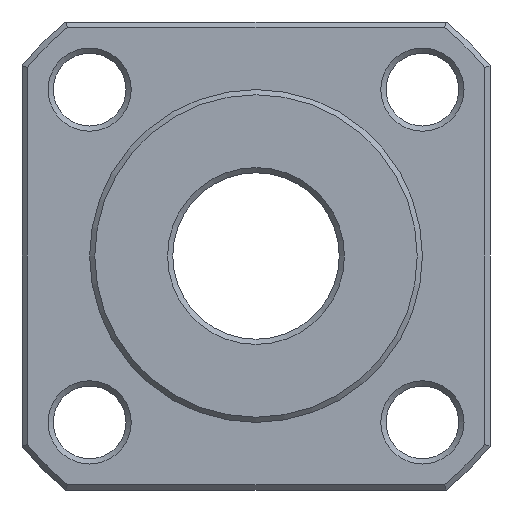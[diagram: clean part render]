
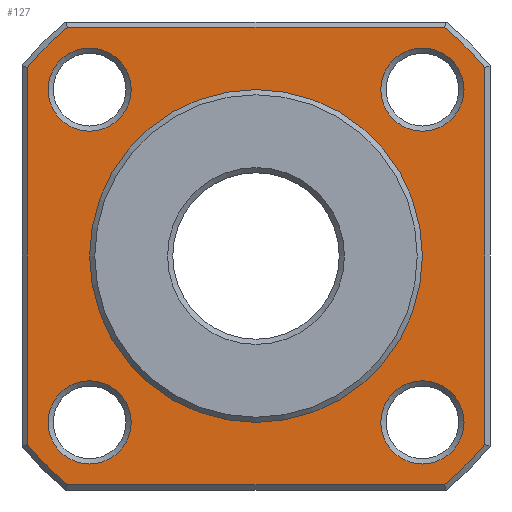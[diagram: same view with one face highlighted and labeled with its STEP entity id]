
A CAD part, left-side view. The second image highlights one B-rep face of the part: STEP entity #127.
In plain terms, the highlighted planar face has unit normal (-1, 0, 0).
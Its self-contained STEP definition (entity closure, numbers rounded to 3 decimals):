
#127=ADVANCED_FACE('',(#199,#200,#201,#202,#203,#204),#205,.F.);
#199=FACE_BOUND('',#363,.T.);
#200=FACE_BOUND('',#364,.T.);
#201=FACE_BOUND('',#365,.T.);
#202=FACE_BOUND('',#366,.T.);
#203=FACE_BOUND('',#367,.T.);
#204=FACE_OUTER_BOUND('',#368,.T.);
#205=PLANE('',#369);
#363=EDGE_LOOP('',(#535));
#364=EDGE_LOOP('',(#536));
#365=EDGE_LOOP('',(#537));
#366=EDGE_LOOP('',(#538));
#367=EDGE_LOOP('',(#539));
#368=EDGE_LOOP('',(#540,#541,#542,#543,#544,#545,#546,#547));
#369=AXIS2_PLACEMENT_3D('',#548,#549,#550);
#535=ORIENTED_EDGE('',*,*,#924,.T.);
#536=ORIENTED_EDGE('',*,*,#925,.T.);
#537=ORIENTED_EDGE('',*,*,#926,.T.);
#538=ORIENTED_EDGE('',*,*,#927,.T.);
#539=ORIENTED_EDGE('',*,*,#923,.F.);
#540=ORIENTED_EDGE('',*,*,#928,.T.);
#541=ORIENTED_EDGE('',*,*,#929,.T.);
#542=ORIENTED_EDGE('',*,*,#930,.T.);
#543=ORIENTED_EDGE('',*,*,#931,.T.);
#544=ORIENTED_EDGE('',*,*,#932,.T.);
#545=ORIENTED_EDGE('',*,*,#933,.T.);
#546=ORIENTED_EDGE('',*,*,#934,.T.);
#547=ORIENTED_EDGE('',*,*,#935,.T.);
#548=CARTESIAN_POINT('',(0.,29.0,0.0));
#549=DIRECTION('',(1.0,0.0,0.0));
#550=DIRECTION('',(0.0,0.0,-1.0));
#923=EDGE_CURVE('',#1038,#1038,#1039,.T.);
#924=EDGE_CURVE('',#1040,#1040,#1041,.T.);
#925=EDGE_CURVE('',#1042,#1042,#1043,.T.);
#926=EDGE_CURVE('',#1044,#1044,#1045,.T.);
#927=EDGE_CURVE('',#1046,#1046,#1047,.T.);
#928=EDGE_CURVE('',#1048,#1049,#1050,.F.);
#929=EDGE_CURVE('',#1049,#1051,#1052,.T.);
#930=EDGE_CURVE('',#1051,#1053,#1054,.F.);
#931=EDGE_CURVE('',#1053,#1055,#1056,.T.);
#932=EDGE_CURVE('',#1055,#1057,#1058,.F.);
#933=EDGE_CURVE('',#1057,#1059,#1060,.T.);
#934=EDGE_CURVE('',#1059,#1061,#1062,.F.);
#935=EDGE_CURVE('',#1061,#1048,#1063,.T.);
#1038=VERTEX_POINT('',#1346);
#1039=CIRCLE('',#1347,16.0);
#1040=VERTEX_POINT('',#1348);
#1041=CIRCLE('',#1349,4.0);
#1042=VERTEX_POINT('',#1350);
#1043=CIRCLE('',#1351,4.0);
#1044=VERTEX_POINT('',#1352);
#1045=CIRCLE('',#1353,4.0);
#1046=VERTEX_POINT('',#1354);
#1047=CIRCLE('',#1355,4.0);
#1048=VERTEX_POINT('',#1356);
#1049=VERTEX_POINT('',#1357);
#1050=CIRCLE('',#1358,28.5);
#1051=VERTEX_POINT('',#1359);
#1052=LINE('',#1360,#1361);
#1053=VERTEX_POINT('',#1362);
#1054=CIRCLE('',#1363,28.5);
#1055=VERTEX_POINT('',#1364);
#1056=LINE('',#1365,#1366);
#1057=VERTEX_POINT('',#1367);
#1058=CIRCLE('',#1368,28.5);
#1059=VERTEX_POINT('',#1369);
#1060=LINE('',#1370,#1371);
#1061=VERTEX_POINT('',#1372);
#1062=CIRCLE('',#1373,28.5);
#1063=LINE('',#1374,#1375);
#1346=CARTESIAN_POINT('',(0.0,0.0,16.0));
#1347=AXIS2_PLACEMENT_3D('',#1623,#1624,#1625);
#1348=CARTESIAN_POINT('',(0.,16.0,12.0));
#1349=AXIS2_PLACEMENT_3D('',#1626,#1627,#1628);
#1350=CARTESIAN_POINT('',(0.,-16.0,12.0));
#1351=AXIS2_PLACEMENT_3D('',#1629,#1630,#1631);
#1352=CARTESIAN_POINT('',(0.,-16.0,-20.0));
#1353=AXIS2_PLACEMENT_3D('',#1632,#1633,#1634);
#1354=CARTESIAN_POINT('',(0.,16.0,-20.0));
#1355=AXIS2_PLACEMENT_3D('',#1635,#1636,#1637);
#1356=CARTESIAN_POINT('',(0.,-22.0,18.118));
#1357=CARTESIAN_POINT('',(0.,-18.118,22.0));
#1358=AXIS2_PLACEMENT_3D('',#1638,#1639,#1640);
#1359=CARTESIAN_POINT('',(0.,18.118,22.0));
#1360=CARTESIAN_POINT('',(0.,17.493,22.0));
#1361=VECTOR('',#1641,1.0);
#1362=CARTESIAN_POINT('',(0.,22.0,18.118));
#1363=AXIS2_PLACEMENT_3D('',#1642,#1643,#1644);
#1364=CARTESIAN_POINT('',(0.,22.0,-18.118));
#1365=CARTESIAN_POINT('',(0.,22.0,-17.493));
#1366=VECTOR('',#1645,1.0);
#1367=CARTESIAN_POINT('',(0.,18.118,-22.0));
#1368=AXIS2_PLACEMENT_3D('',#1646,#1647,#1648);
#1369=CARTESIAN_POINT('',(0.,-18.118,-22.0));
#1370=CARTESIAN_POINT('',(0.,-17.493,-22.0));
#1371=VECTOR('',#1649,1.0);
#1372=CARTESIAN_POINT('',(0.,-22.0,-18.118));
#1373=AXIS2_PLACEMENT_3D('',#1650,#1651,#1652);
#1374=CARTESIAN_POINT('',(0.,-22.0,17.493));
#1375=VECTOR('',#1653,1.0);
#1623=CARTESIAN_POINT('',(0.0,0.0,0.0));
#1624=DIRECTION('',(-1.0,0.0,0.0));
#1625=DIRECTION('',(0.0,0.0,1.0));
#1626=CARTESIAN_POINT('',(0.,16.0,16.0));
#1627=DIRECTION('',(1.0,0.0,0.0));
#1628=DIRECTION('',(0.0,0.0,-1.0));
#1629=CARTESIAN_POINT('',(0.,-16.0,16.0));
#1630=DIRECTION('',(1.0,0.0,0.0));
#1631=DIRECTION('',(0.0,0.0,-1.0));
#1632=CARTESIAN_POINT('',(0.,-16.0,-16.0));
#1633=DIRECTION('',(1.0,0.0,0.0));
#1634=DIRECTION('',(0.0,0.0,-1.0));
#1635=CARTESIAN_POINT('',(0.,16.0,-16.0));
#1636=DIRECTION('',(1.0,0.0,0.0));
#1637=DIRECTION('',(0.0,0.0,-1.0));
#1638=CARTESIAN_POINT('',(0.,0.0,0.0));
#1639=DIRECTION('',(1.0,0.0,0.0));
#1640=DIRECTION('',(0.0,0.0,-1.0));
#1641=DIRECTION('',(0.0,1.0,0.0));
#1642=CARTESIAN_POINT('',(0.,0.0,0.0));
#1643=DIRECTION('',(1.0,0.0,0.0));
#1644=DIRECTION('',(0.0,0.0,-1.0));
#1645=DIRECTION('',(0.0,0.0,-1.0));
#1646=CARTESIAN_POINT('',(0.,0.0,0.0));
#1647=DIRECTION('',(1.0,0.0,0.0));
#1648=DIRECTION('',(0.0,0.0,-1.0));
#1649=DIRECTION('',(0.0,-1.0,0.0));
#1650=CARTESIAN_POINT('',(0.,0.0,0.0));
#1651=DIRECTION('',(1.0,0.0,0.0));
#1652=DIRECTION('',(0.0,0.0,-1.0));
#1653=DIRECTION('',(0.0,0.0,1.0));
